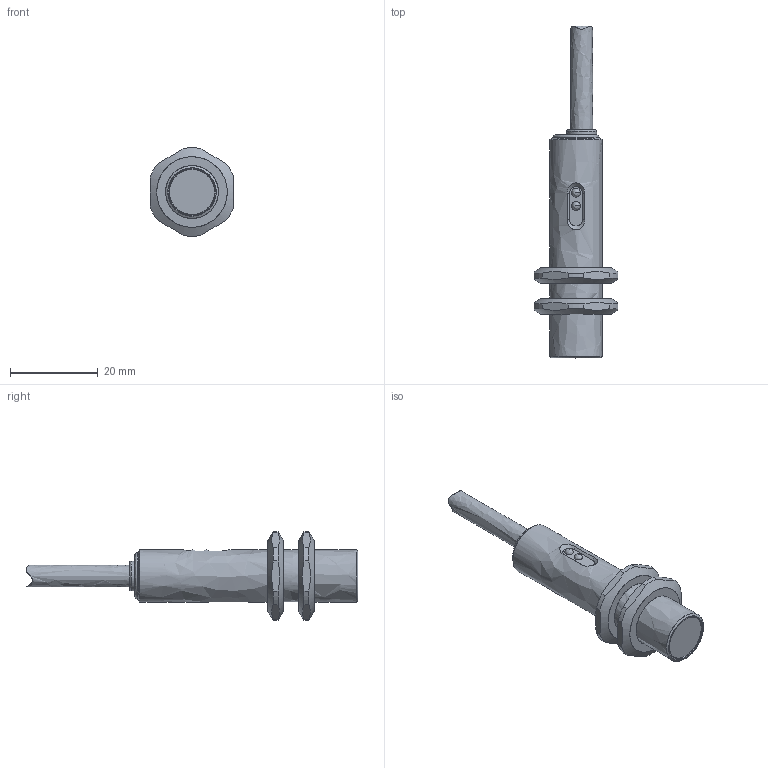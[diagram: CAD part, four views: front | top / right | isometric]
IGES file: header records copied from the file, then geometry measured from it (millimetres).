
Global section: file name: H:\lem\3DCAD_PRK412B.igs; native system: NX V11.0; preprocessor: SIEMENS PLM Software NX 11.0; date: 20180705.142838; units: millimetre
Bounding box: 19 x 75.6 x 20.16 mm (x, y, z)
Surface area: 3787.3 mm2 (no closed solid volume)
Topology: 0 solids, 0 shells, 56 faces, 485 edges, 467 vertices
Faces by surface type: bspline 56
